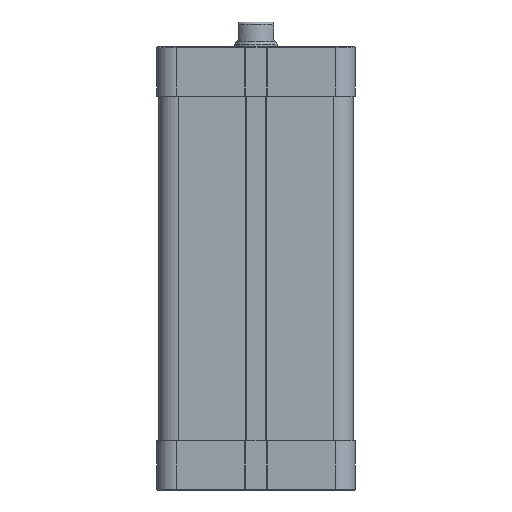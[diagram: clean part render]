
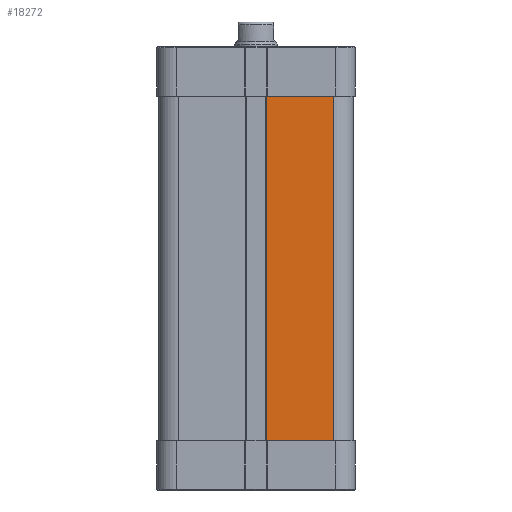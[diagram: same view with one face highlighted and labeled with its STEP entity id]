
A CAD part, front view. The second image highlights one B-rep face of the part: STEP entity #18272.
In plain terms, the highlighted planar face has unit normal (0, -1, 0).
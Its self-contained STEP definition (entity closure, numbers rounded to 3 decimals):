
#342 = VECTOR ( 'NONE', #1080, 1000. ) ;
#915 = VECTOR ( 'NONE', #31453, 1000. ) ;
#977 = CARTESIAN_POINT ( 'NONE',  ( 2.925, -27.5, 0. ) ) ;
#1080 = DIRECTION ( 'NONE',  ( 1., 0., 0. ) ) ;
#3610 = LINE ( 'NONE', #13580, #342 ) ;
#5590 = VECTOR ( 'NONE', #29607, 1000. ) ;
#6619 = VECTOR ( 'NONE', #34379, 1000. ) ;
#11795 = DIRECTION ( 'NONE',  ( 0., -1., 0. ) ) ;
#12168 = PLANE ( 'NONE',  #35938 ) ;
#12623 = EDGE_CURVE ( 'NONE', #44795, #42643, #3610, .T. ) ;
#13580 = CARTESIAN_POINT ( 'NONE',  ( 2.925, -27.5, -97.2 ) ) ;
#13637 = CARTESIAN_POINT ( 'NONE',  ( 2.925, -27.5, -97.2 ) ) ;
#14813 = LINE ( 'NONE', #47001, #5590 ) ;
#16016 = VERTEX_POINT ( 'NONE', #977 ) ;
#18272 = ADVANCED_FACE ( 'NONE', ( #35020 ), #12168, .T. ) ;
#18579 = CARTESIAN_POINT ( 'NONE',  ( 22., -27.5, -97.2 ) ) ;
#19430 = ORIENTED_EDGE ( 'NONE', *, *, #12623, .T. ) ;
#26748 = ORIENTED_EDGE ( 'NONE', *, *, #45340, .T. ) ;
#28587 = CARTESIAN_POINT ( 'NONE',  ( 2.925, -27.5, -97.2 ) ) ;
#29607 = DIRECTION ( 'NONE',  ( 0., 0., 1. ) ) ;
#30694 = ORIENTED_EDGE ( 'NONE', *, *, #37671, .F. ) ;
#31453 = DIRECTION ( 'NONE',  ( 1., 0., 0. ) ) ;
#34379 = DIRECTION ( 'NONE',  ( 0., 0., 1. ) ) ;
#34719 = CARTESIAN_POINT ( 'NONE',  ( 2.925, -27.5, -97.2 ) ) ;
#35020 = FACE_OUTER_BOUND ( 'NONE', #37510, .T. ) ;
#35938 = AXIS2_PLACEMENT_3D ( 'NONE', #28587, #11795, #45817 ) ;
#37472 = VERTEX_POINT ( 'NONE', #45100 ) ;
#37510 = EDGE_LOOP ( 'NONE', ( #41107, #30694, #19430, #26748 ) ) ;
#37671 = EDGE_CURVE ( 'NONE', #44795, #16016, #40143, .T. ) ;
#39680 = CARTESIAN_POINT ( 'NONE',  ( 2.925, -27.5, 0. ) ) ;
#40143 = LINE ( 'NONE', #13637, #6619 ) ;
#41107 = ORIENTED_EDGE ( 'NONE', *, *, #53564, .F. ) ;
#42643 = VERTEX_POINT ( 'NONE', #18579 ) ;
#44795 = VERTEX_POINT ( 'NONE', #34719 ) ;
#45100 = CARTESIAN_POINT ( 'NONE',  ( 22., -27.5, 0. ) ) ;
#45340 = EDGE_CURVE ( 'NONE', #42643, #37472, #14813, .T. ) ;
#45817 = DIRECTION ( 'NONE',  ( 1., 0., 0. ) ) ;
#47001 = CARTESIAN_POINT ( 'NONE',  ( 22., -27.5, -97.2 ) ) ;
#48880 = LINE ( 'NONE', #39680, #915 ) ;
#53564 = EDGE_CURVE ( 'NONE', #16016, #37472, #48880, .T. ) ;
